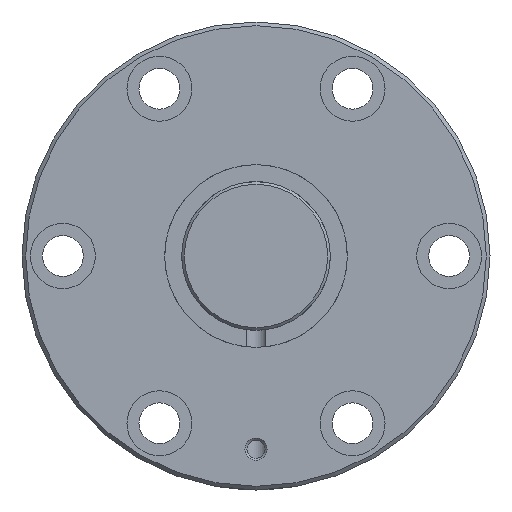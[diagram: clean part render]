
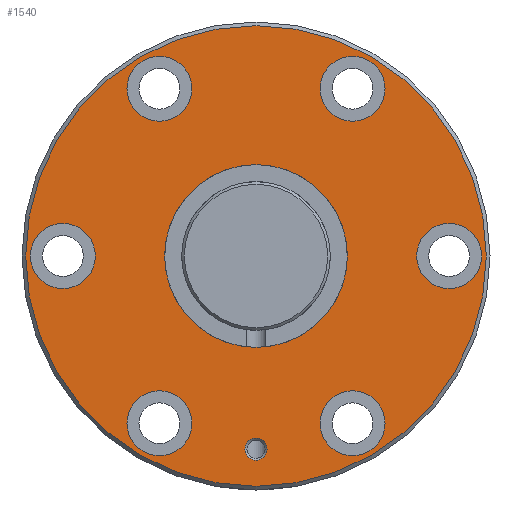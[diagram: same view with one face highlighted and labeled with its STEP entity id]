
A CAD part, left-side view. The second image highlights one B-rep face of the part: STEP entity #1540.
In plain terms, the highlighted planar face has unit normal (-1, 0, 0).
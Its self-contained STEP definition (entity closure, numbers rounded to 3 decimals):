
#259=ORIENTED_EDGE('',*,*,#611,.T.);
#260=ORIENTED_EDGE('',*,*,#643,.T.);
#261=ORIENTED_EDGE('',*,*,#644,.T.);
#262=ORIENTED_EDGE('',*,*,#645,.T.);
#263=ORIENTED_EDGE('',*,*,#646,.T.);
#264=ORIENTED_EDGE('',*,*,#647,.T.);
#265=ORIENTED_EDGE('',*,*,#648,.T.);
#266=ORIENTED_EDGE('',*,*,#649,.T.);
#267=ORIENTED_EDGE('',*,*,#642,.F.);
#611=EDGE_CURVE('',#807,#807,#951,.T.);
#642=EDGE_CURVE('',#838,#838,#954,.T.);
#643=EDGE_CURVE('',#839,#839,#955,.F.);
#644=EDGE_CURVE('',#840,#840,#956,.T.);
#645=EDGE_CURVE('',#841,#841,#957,.T.);
#646=EDGE_CURVE('',#842,#842,#958,.T.);
#647=EDGE_CURVE('',#843,#843,#959,.T.);
#648=EDGE_CURVE('',#844,#844,#960,.T.);
#649=EDGE_CURVE('',#845,#845,#961,.T.);
#807=VERTEX_POINT('',#2555);
#838=VERTEX_POINT('',#2701);
#839=VERTEX_POINT('',#2704);
#840=VERTEX_POINT('',#2706);
#841=VERTEX_POINT('',#2708);
#842=VERTEX_POINT('',#2710);
#843=VERTEX_POINT('',#2712);
#844=VERTEX_POINT('',#2714);
#845=VERTEX_POINT('',#2716);
#951=CIRCLE('',#1683,24.6);
#954=CIRCLE('',#1690,62.);
#955=CIRCLE('',#1692,8.75);
#956=CIRCLE('',#1693,3.);
#957=CIRCLE('',#1694,8.75);
#958=CIRCLE('',#1695,8.75);
#959=CIRCLE('',#1696,8.75);
#960=CIRCLE('',#1697,8.75);
#961=CIRCLE('',#1698,8.75);
#1107=EDGE_LOOP('',(#259));
#1108=EDGE_LOOP('',(#260));
#1109=EDGE_LOOP('',(#261));
#1110=EDGE_LOOP('',(#262));
#1111=EDGE_LOOP('',(#263));
#1112=EDGE_LOOP('',(#264));
#1113=EDGE_LOOP('',(#265));
#1114=EDGE_LOOP('',(#266));
#1115=EDGE_LOOP('',(#267));
#1307=FACE_BOUND('',#1107,.T.);
#1308=FACE_BOUND('',#1108,.T.);
#1309=FACE_BOUND('',#1109,.T.);
#1310=FACE_BOUND('',#1110,.T.);
#1311=FACE_BOUND('',#1111,.T.);
#1312=FACE_BOUND('',#1112,.T.);
#1313=FACE_BOUND('',#1113,.T.);
#1314=FACE_BOUND('',#1114,.T.);
#1315=FACE_BOUND('',#1115,.T.);
#1478=PLANE('',#1691);
#1540=ADVANCED_FACE('',(#1307,#1308,#1309,#1310,#1311,#1312,#1313,#1314,
#1315),#1478,.T.);
#1683=AXIS2_PLACEMENT_3D('',#2554,#1959,#1960);
#1690=AXIS2_PLACEMENT_3D('',#2700,#1993,#1994);
#1691=AXIS2_PLACEMENT_3D('',#2702,#1995,#1996);
#1692=AXIS2_PLACEMENT_3D('',#2703,#1997,#1998);
#1693=AXIS2_PLACEMENT_3D('',#2705,#1999,#2000);
#1694=AXIS2_PLACEMENT_3D('',#2707,#2001,#2002);
#1695=AXIS2_PLACEMENT_3D('',#2709,#2003,#2004);
#1696=AXIS2_PLACEMENT_3D('',#2711,#2005,#2006);
#1697=AXIS2_PLACEMENT_3D('',#2713,#2007,#2008);
#1698=AXIS2_PLACEMENT_3D('',#2715,#2009,#2010);
#1959=DIRECTION('',(1.,0.,0.));
#1960=DIRECTION('',(0.,0.,-1.));
#1993=DIRECTION('',(1.,0.,0.));
#1994=DIRECTION('',(0.,0.,-1.));
#1995=DIRECTION('',(-1.,0.,0.));
#1996=DIRECTION('',(0.,0.,1.));
#1997=DIRECTION('',(-1.,0.,0.));
#1998=DIRECTION('',(0.,0.,1.));
#1999=DIRECTION('',(1.,0.,0.));
#2000=DIRECTION('',(0.,1.,0.));
#2001=DIRECTION('',(1.,0.,0.));
#2002=DIRECTION('',(0.,0.,-1.));
#2003=DIRECTION('',(1.,0.,0.));
#2004=DIRECTION('',(0.,0.,-1.));
#2005=DIRECTION('',(1.,0.,0.));
#2006=DIRECTION('',(0.,0.,-1.));
#2007=DIRECTION('',(1.,0.,0.));
#2008=DIRECTION('',(0.,0.,-1.));
#2009=DIRECTION('',(1.,0.,0.));
#2010=DIRECTION('',(0.,0.,-1.));
#2554=CARTESIAN_POINT('',(0.,0.,0.));
#2555=CARTESIAN_POINT('',(0.,0.,-24.6));
#2700=CARTESIAN_POINT('',(0.,0.,0.));
#2701=CARTESIAN_POINT('',(0.,0.,-62.));
#2702=CARTESIAN_POINT('',(0.,62.,0.));
#2703=CARTESIAN_POINT('',(0.,52.,0.));
#2704=CARTESIAN_POINT('',(0.,52.,8.75));
#2705=CARTESIAN_POINT('',(0.,0.,-52.));
#2706=CARTESIAN_POINT('',(0.,3.,-52.));
#2707=CARTESIAN_POINT('',(0.,26.,45.033));
#2708=CARTESIAN_POINT('',(0.,26.,36.283));
#2709=CARTESIAN_POINT('',(0.,-26.,-45.033));
#2710=CARTESIAN_POINT('',(0.,-26.,-53.783));
#2711=CARTESIAN_POINT('',(0.,-26.,45.033));
#2712=CARTESIAN_POINT('',(0.,-26.,36.283));
#2713=CARTESIAN_POINT('',(0.,26.,-45.033));
#2714=CARTESIAN_POINT('',(0.,26.,-53.783));
#2715=CARTESIAN_POINT('',(0.,-52.,0.));
#2716=CARTESIAN_POINT('',(0.,-52.,-8.75));
